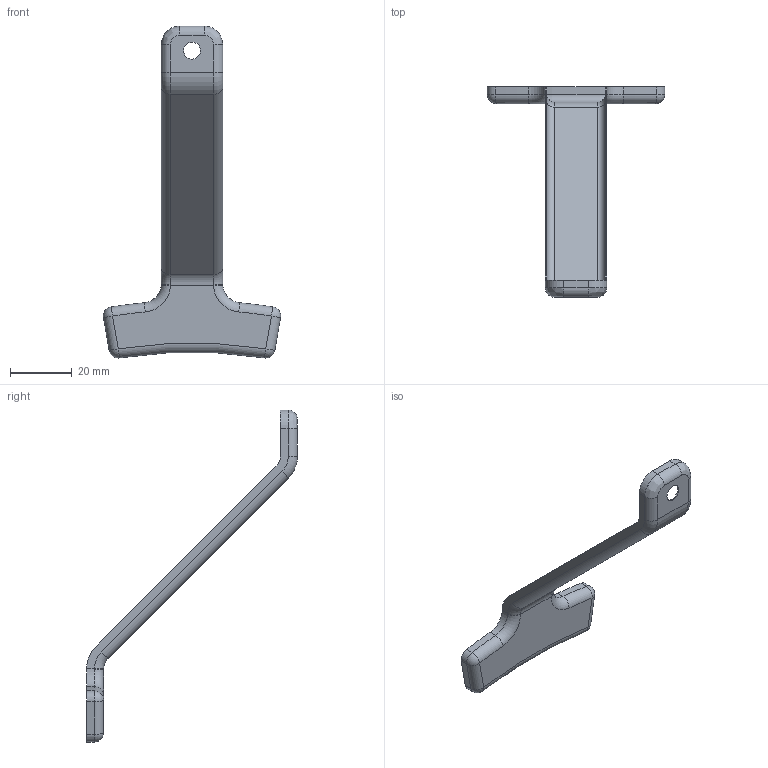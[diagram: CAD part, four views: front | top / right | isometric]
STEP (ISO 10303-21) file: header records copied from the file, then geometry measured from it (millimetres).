
FILE_DESCRIPTION(/* description */ (''),/* implementation_level */ '2;1');
FILE_NAME(/* name */ '2504_ePic_bracket_L2_eSide.stp',/* time_stamp */ '2025-05-05T16:23:48+02:00',/* author */ (''),/* organization */ (''),/* preprocessor_version */ 'ST-DEVELOPER v19.4',/* originating_system */ 'SIEMENS PLM Software NX2306.5001',/* authorisation */ '');
FILE_SCHEMA (('AP203_CONFIGURATION_CONTROLLED_3D_DESIGN_OF_MECHANICAL_PARTS_AND_ASSEMBLIES_MIM_LF { 1 0 10303 403 2 1 2}'));
Length unit declared in the file: millimetre
Products named in the file (1): ePic-Frame_L1toL2-Flange_eSide.v3_dwg_objects
Bounding box: 57.66 x 68.5 x 107.86 mm (x, y, z)
Volume: 2285.4 mm3; surface area: 9330.3 mm2
Topology: 1 solids, 1 shells, 99 faces, 244 edges, 139 vertices
Faces by surface type: cylinder 45, plane 20, torus 20, sphere 8, bspline 6
Full cylindrical faces by diameter (mm): 5.5 x1
Entity records: 3000 total; most frequent: CARTESIAN_POINT 582, DIRECTION 542, ORIENTED_EDGE 468, EDGE_CURVE 234, AXIS2_PLACEMENT_3D 226, VERTEX_POINT 138, CIRCLE 132, EDGE_LOOP 102
